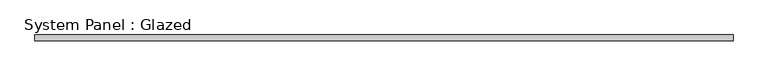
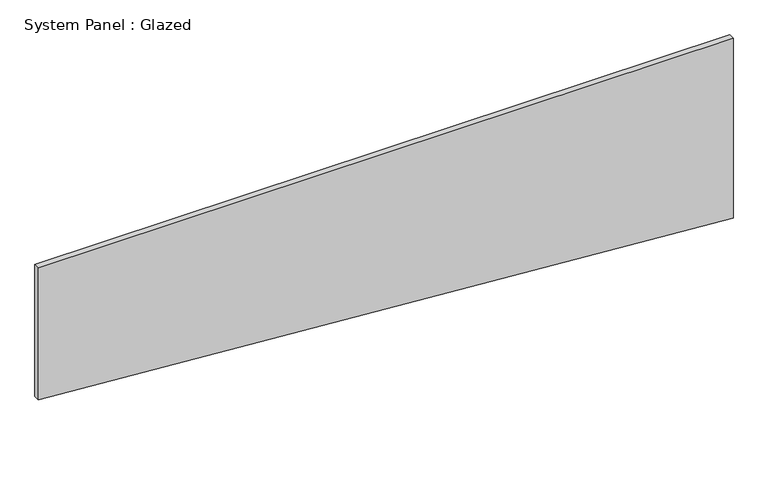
"""IFC4 building model written with IfcOpenShell, lengths in millimetres: plate geometry, System Panel : Glazed."""

from ifc_helpers import new_model, si_unit, frame, origin, place, context, project, spatial, polyline, outline, extrude, source, transform, mapped, element, save


def system_panel_glazed_1d67b1a0(model_context):
    return source(origin(), model_context, "Body", "SweptSolid", [
        extrude(outline(polyline([(221.1382962, -1504.95), (0.0, 1504.95), (824.1295218, 1504.95), (824.1295218, -1504.95), (221.1382962, -1504.95)])), frame((0.0, 19.05, 0.0), z_axis=(0.0, 1.0, 0.0), x_axis=(0.0, 0.0, 1.0)), (0.0, 0.0, 1.0), 25.4),
    ])


if __name__ == "__main__":
    model = new_model("IFC4")
    model_context = context("Model", 3, world=origin())
    ifc_project = project(units=[si_unit("LENGTHUNIT", "METRE", prefix="MILLI")], contexts=[model_context])
    site = spatial("IfcSite", under=ifc_project)
    building = spatial("IfcBuilding", under=site)
    placement = place(None, origin())
    system_panel_glazed_shape = system_panel_glazed_1d67b1a0(model_context)
    element("IfcPlate", 1, ObjectType="System Panel : Glazed", at=placement, inside=building, context=model_context, shape_type="MappedRepresentation", body=[
        mapped(system_panel_glazed_shape, transform((0.0, 0.0, 0.0), x_axis=(1.0, 0.0, 0.0), y_axis=(0.0, 1.0, 0.0), z_axis=(0.0, 0.0, 1.0))),
    ])
    save(model, "model.ifc")
